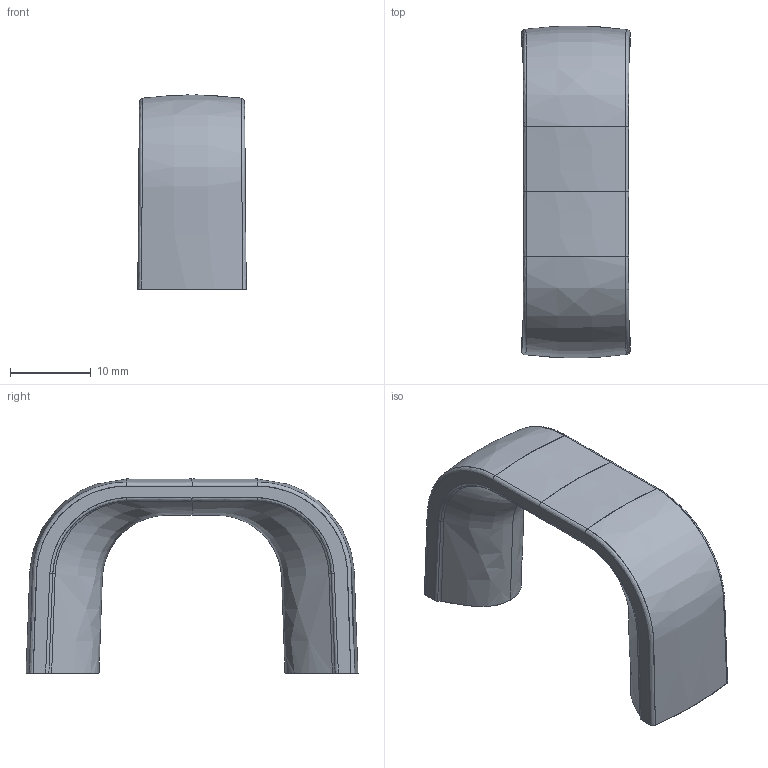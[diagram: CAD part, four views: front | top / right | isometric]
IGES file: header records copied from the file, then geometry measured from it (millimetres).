
Start section: C
Global section: file name: 8359-40.igs; native system: By Siemens PLM Incorporated; preprocessor: XPlus GENERIC/IGES 16.0.42; author: Author; organization: Title; date: 20251202.120147; units: millimetre
Bounding box: 13.41 x 41.05 x 24 mm (x, y, z)
Surface area: 2904.1 mm2 (no closed solid volume)
Topology: 0 solids, 0 shells, 50 faces, 300 edges, 300 vertices
Faces by surface type: bspline 50
